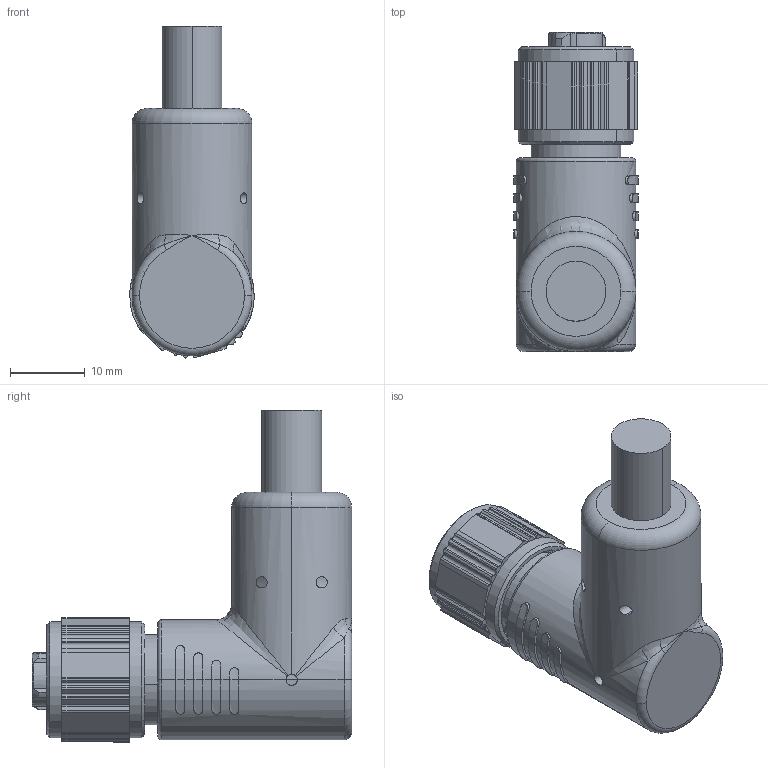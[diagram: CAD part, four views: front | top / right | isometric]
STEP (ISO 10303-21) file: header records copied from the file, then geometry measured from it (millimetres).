
FILE_DESCRIPTION (( 'STEP AP214' ), '1' );
FILE_NAME ('180¡ã connector.STEP', '2019-06-21T08:56:35', ( '' ), ( '' ), 'SwSTEP 2.0', 'SolidWorks 2018', '' );
FILE_SCHEMA (( 'AUTOMOTIVE_DESIGN' ));
Length unit declared in the file: millimetre
Products named in the file (1): 180° connectorrr
Bounding box: 16.6 x 42.6 x 44.3 mm (x, y, z)
Volume: 11811.1 mm3; surface area: 5498.6 mm2
Topology: 1 solids, 4 shells, 748 faces, 1827 edges, 1146 vertices
Faces by surface type: cylinder 288, plane 228, cone 90, bspline 77, torus 65
Entity records: 36446 total; most frequent: CARTESIAN_POINT 11041, ORIENTED_EDGE 3646, DIRECTION 3588, EDGE_CURVE 1823, AXIS2_PLACEMENT_3D 1387, VERTEX_POINT 1146, EDGE_LOOP 819, VECTOR 814
